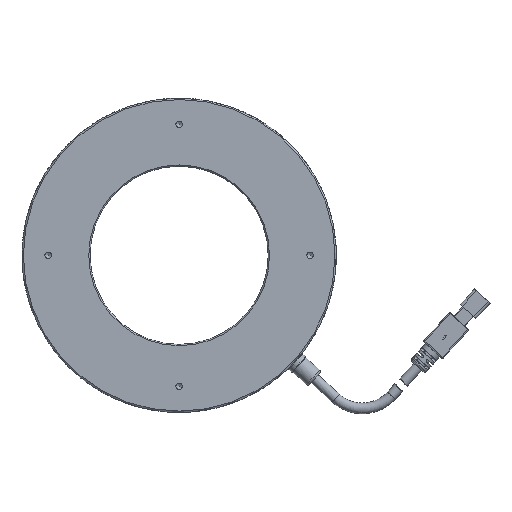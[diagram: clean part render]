
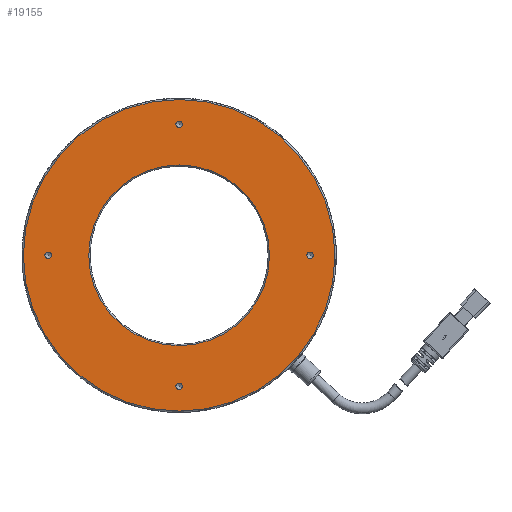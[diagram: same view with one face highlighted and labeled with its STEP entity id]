
A CAD part, front view. The second image highlights one B-rep face of the part: STEP entity #19155.
In plain terms, the highlighted planar face has unit normal (0, -1, 0).
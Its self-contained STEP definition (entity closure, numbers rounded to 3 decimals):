
#489 = DIRECTION ( 'NONE',  ( 0., 0., -1. ) ) ;
#629 = VERTEX_POINT ( 'NONE', #29289 ) ;
#1654 = DIRECTION ( 'NONE',  ( 0., -1., 0. ) ) ;
#2490 = DIRECTION ( 'NONE',  ( 0., -1., 0. ) ) ;
#3423 = CARTESIAN_POINT ( 'NONE',  ( -1.698, 2.119, 48.75 ) ) ;
#3455 = AXIS2_PLACEMENT_3D ( 'NONE', #12546, #7490, #10093 ) ;
#4114 = CARTESIAN_POINT ( 'NONE',  ( -1.698, 2.119, 0. ) ) ;
#4236 = DIRECTION ( 'NONE',  ( 0., -1., 0. ) ) ;
#5183 = EDGE_CURVE ( 'NONE', #22172, #22172, #28274, .T. ) ;
#5320 = EDGE_LOOP ( 'NONE', ( #24329 ) ) ;
#6060 = CARTESIAN_POINT ( 'NONE',  ( -51.698, 2.119, 0. ) ) ;
#7435 = EDGE_CURVE ( 'NONE', #629, #629, #27694, .T. ) ;
#7490 = DIRECTION ( 'NONE',  ( 0., -1., 0. ) ) ;
#8355 = EDGE_CURVE ( 'NONE', #19209, #19209, #11141, .T. ) ;
#8725 = DIRECTION ( 'NONE',  ( 0., 0., 1. ) ) ;
#8759 = AXIS2_PLACEMENT_3D ( 'NONE', #10098, #23944, #20923 ) ;
#9321 = FACE_BOUND ( 'NONE', #11003, .T. ) ;
#10049 = ORIENTED_EDGE ( 'NONE', *, *, #5183, .T. ) ;
#10093 = DIRECTION ( 'NONE',  ( 0., 0., -1. ) ) ;
#10098 = CARTESIAN_POINT ( 'NONE',  ( -1.698, 2.119, 0. ) ) ;
#10266 = CARTESIAN_POINT ( 'NONE',  ( -1.698, 2.119, -50. ) ) ;
#11003 = EDGE_LOOP ( 'NONE', ( #23068 ) ) ;
#11141 = CIRCLE ( 'NONE', #18125, 1.25 ) ;
#12064 = CIRCLE ( 'NONE', #25928, 59.5 ) ;
#12546 = CARTESIAN_POINT ( 'NONE',  ( -1.698, 2.119, 50. ) ) ;
#13080 = CARTESIAN_POINT ( 'NONE',  ( 48.302, 2.119, 0. ) ) ;
#13444 = CARTESIAN_POINT ( 'NONE',  ( 48.302, 2.119, -1.25 ) ) ;
#14048 = AXIS2_PLACEMENT_3D ( 'NONE', #6060, #32978, #489 ) ;
#15489 = ORIENTED_EDGE ( 'NONE', *, *, #27733, .F. ) ;
#15776 = CIRCLE ( 'NONE', #3455, 1.25 ) ;
#15908 = ORIENTED_EDGE ( 'NONE', *, *, #7435, .F. ) ;
#16230 = ORIENTED_EDGE ( 'NONE', *, *, #20378, .T. ) ;
#16508 = FACE_BOUND ( 'NONE', #21549, .T. ) ;
#16765 = PLANE ( 'NONE',  #29715 ) ;
#18125 = AXIS2_PLACEMENT_3D ( 'NONE', #13080, #2490, #18533 ) ;
#18533 = DIRECTION ( 'NONE',  ( 0., 0., -1. ) ) ;
#19155 = ADVANCED_FACE ( 'NONE', ( #33001, #33863, #23727, #20713, #16508, #9321 ), #16765, .F. ) ;
#19209 = VERTEX_POINT ( 'NONE', #13444 ) ;
#20378 = EDGE_CURVE ( 'NONE', #22996, #22996, #12064, .T. ) ;
#20713 = FACE_BOUND ( 'NONE', #23481, .T. ) ;
#20923 = DIRECTION ( 'NONE',  ( 0., 0., 1. ) ) ;
#21327 = VERTEX_POINT ( 'NONE', #3423 ) ;
#21549 = EDGE_LOOP ( 'NONE', ( #15489 ) ) ;
#22061 = CARTESIAN_POINT ( 'NONE',  ( 32.302, 2.119, 0. ) ) ;
#22172 = VERTEX_POINT ( 'NONE', #34764 ) ;
#22996 = VERTEX_POINT ( 'NONE', #32734 ) ;
#23068 = ORIENTED_EDGE ( 'NONE', *, *, #8355, .F. ) ;
#23481 = EDGE_LOOP ( 'NONE', ( #15908 ) ) ;
#23727 = FACE_BOUND ( 'NONE', #5320, .T. ) ;
#23944 = DIRECTION ( 'NONE',  ( 0., 1., 0. ) ) ;
#24329 = ORIENTED_EDGE ( 'NONE', *, *, #32892, .F. ) ;
#24615 = DIRECTION ( 'NONE',  ( 0., 1., 0. ) ) ;
#24839 = CARTESIAN_POINT ( 'NONE',  ( -1.698, 2.119, -51.25 ) ) ;
#25928 = AXIS2_PLACEMENT_3D ( 'NONE', #4114, #4236, #31124 ) ;
#26014 = DIRECTION ( 'NONE',  ( 0., 0., -1. ) ) ;
#27694 = CIRCLE ( 'NONE', #14048, 1.25 ) ;
#27733 = EDGE_CURVE ( 'NONE', #21327, #21327, #15776, .T. ) ;
#28274 = CIRCLE ( 'NONE', #8759, 34.5 ) ;
#29262 = AXIS2_PLACEMENT_3D ( 'NONE', #10266, #1654, #26014 ) ;
#29289 = CARTESIAN_POINT ( 'NONE',  ( -51.698, 2.119, -1.25 ) ) ;
#29715 = AXIS2_PLACEMENT_3D ( 'NONE', #22061, #24615, #8725 ) ;
#31067 = EDGE_LOOP ( 'NONE', ( #10049 ) ) ;
#31124 = DIRECTION ( 'NONE',  ( 0., 0., 1. ) ) ;
#32345 = VERTEX_POINT ( 'NONE', #24839 ) ;
#32734 = CARTESIAN_POINT ( 'NONE',  ( -1.698, 2.119, 59.5 ) ) ;
#32892 = EDGE_CURVE ( 'NONE', #32345, #32345, #32893, .T. ) ;
#32893 = CIRCLE ( 'NONE', #29262, 1.25 ) ;
#32978 = DIRECTION ( 'NONE',  ( 0., -1., 0. ) ) ;
#33001 = FACE_BOUND ( 'NONE', #31067, .T. ) ;
#33863 = FACE_OUTER_BOUND ( 'NONE', #34847, .T. ) ;
#34764 = CARTESIAN_POINT ( 'NONE',  ( -1.698, 2.119, 34.5 ) ) ;
#34847 = EDGE_LOOP ( 'NONE', ( #16230 ) ) ;
